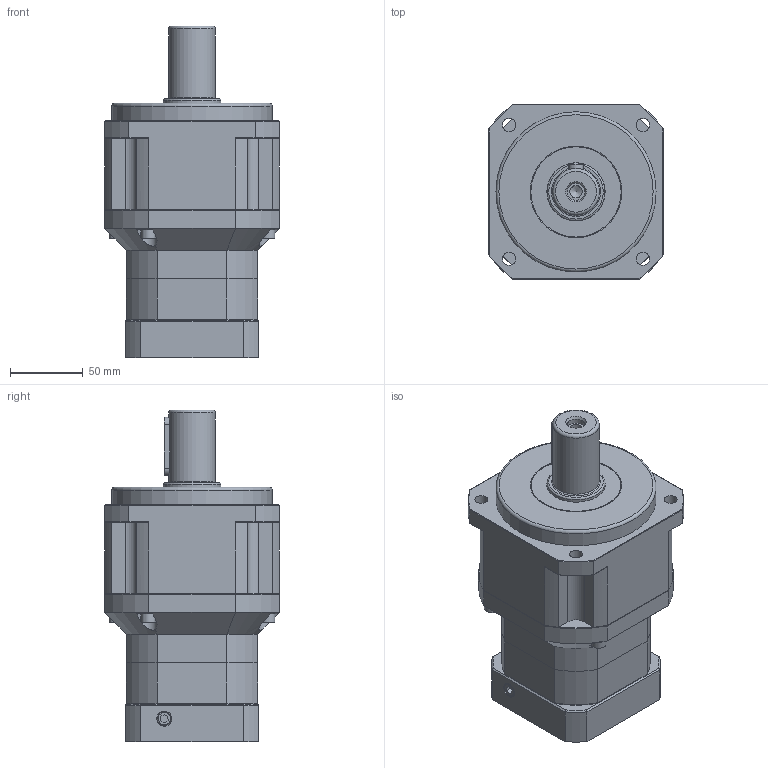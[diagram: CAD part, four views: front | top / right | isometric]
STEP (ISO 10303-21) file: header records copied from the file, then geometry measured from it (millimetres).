
FILE_DESCRIPTION((''),'2;1');
FILE_NAME('C:\Work\감속기 도면(new)12-02-01\KSB-Type\KSB-120\KSB-120-2\KSB-120-2 (70-90-M6).stp','2013-12-27T15:07:26',('young'),(''),'Autodesk Inventor 2012','Autodesk Inventor 2012','');
FILE_SCHEMA(('AUTOMOTIVE_DESIGN { 1 0 10303 214 1 1 1 1 }'));
Length unit declared in the file: millimetre
Products named in the file (3): KSB-120-2 (70-90-M6); KSB-120-2 Body; 90-BK(70-90-M6) rev
Assembly tree (2 placements, depth 2):
  KSB-120-2 (70-90-M6)
    KSB-120-2 Body
    90-BK(70-90-M6) rev
Bounding box: 120 x 120 x 228 mm (x, y, z)
Volume: 1626459.2 mm3; surface area: 206265.4 mm2
Topology: 21 solids, 21 shells, 617 faces, 1422 edges, 894 vertices
Faces by surface type: plane 359, cylinder 141, cone 88, torus 16, bspline 13
Full cylindrical faces by diameter (mm): 4.2 x4, 4.5 x4, 5 x12, 5.1 x1, 6 x9, 6.5 x5, 6.8 x4, 8 x4, 8.433 x2, 8.5 x1, 9 x4, 9.5 x2, 10 x9, 11 x4, 12 x1, 19 x1, 25 x1, 29.8 x1, 30 x1, 32 x1, 39.8 x1, 40 x1, 45 x2, 62 x2, 68 x1, 69.02 x1, 70 x1, 78 x2, 110 x1
Entity records: 17410 total; most frequent: CARTESIAN_POINT 3928, DIRECTION 2800, ORIENTED_EDGE 2458, EDGE_CURVE 1229, AXIS2_PLACEMENT_3D 1051, EDGE_LOOP 869, VERTEX_POINT 858, VECTOR 698
